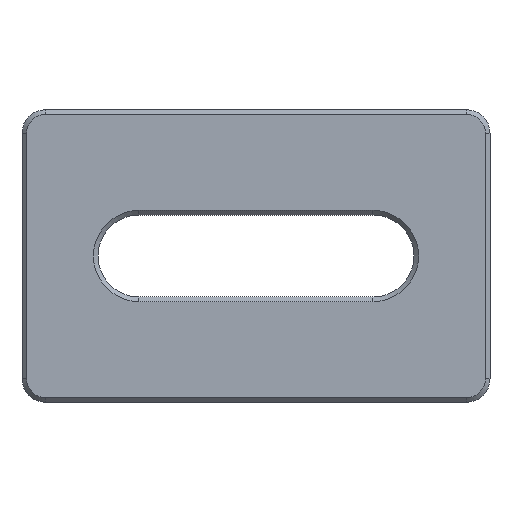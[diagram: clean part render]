
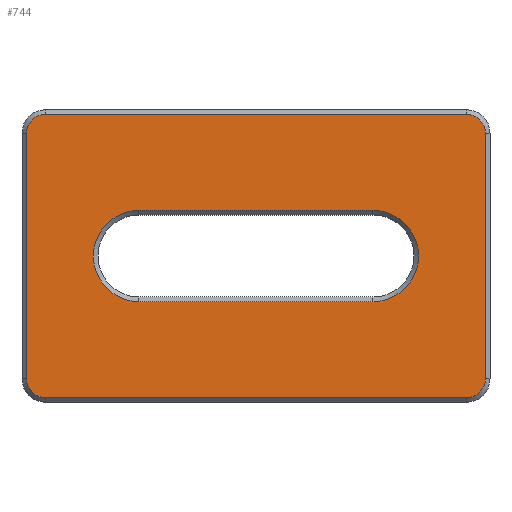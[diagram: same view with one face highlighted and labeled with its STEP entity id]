
A CAD part, front view. The second image highlights one B-rep face of the part: STEP entity #744.
In plain terms, the highlighted planar face has unit normal (0, -1, 0).
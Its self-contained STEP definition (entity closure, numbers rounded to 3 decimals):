
#17=FACE_BOUND('',#133,.T.);
#43=PLANE('',#829);
#83=FACE_OUTER_BOUND('',#132,.T.);
#132=EDGE_LOOP('',(#630,#631,#632,#633,#634,#635,#636,#637));
#133=EDGE_LOOP('',(#638,#639,#640,#641));
#169=CIRCLE('',#822,3.9);
#171=CIRCLE('',#826,3.9);
#172=CIRCLE('',#830,1.6);
#173=CIRCLE('',#831,1.6);
#174=CIRCLE('',#832,1.6);
#175=CIRCLE('',#833,1.6);
#227=LINE('',#1225,#301);
#232=LINE('',#1236,#306);
#234=LINE('',#1245,#308);
#235=LINE('',#1249,#309);
#236=LINE('',#1253,#310);
#237=LINE('',#1257,#311);
#301=VECTOR('',#997,10.);
#306=VECTOR('',#1010,10.);
#308=VECTOR('',#1022,10.);
#309=VECTOR('',#1025,10.);
#310=VECTOR('',#1028,10.);
#311=VECTOR('',#1031,10.);
#371=VERTEX_POINT('',#1222);
#372=VERTEX_POINT('',#1224);
#373=VERTEX_POINT('',#1229);
#374=VERTEX_POINT('',#1234);
#375=VERTEX_POINT('',#1243);
#376=VERTEX_POINT('',#1244);
#377=VERTEX_POINT('',#1246);
#378=VERTEX_POINT('',#1248);
#379=VERTEX_POINT('',#1250);
#380=VERTEX_POINT('',#1252);
#381=VERTEX_POINT('',#1254);
#382=VERTEX_POINT('',#1256);
#456=EDGE_CURVE('',#371,#372,#227,.T.);
#460=EDGE_CURVE('',#373,#371,#169,.T.);
#463=EDGE_CURVE('',#374,#373,#232,.T.);
#464=EDGE_CURVE('',#372,#374,#171,.T.);
#466=EDGE_CURVE('',#375,#376,#234,.T.);
#467=EDGE_CURVE('',#377,#375,#172,.T.);
#468=EDGE_CURVE('',#378,#377,#235,.T.);
#469=EDGE_CURVE('',#379,#378,#173,.T.);
#470=EDGE_CURVE('',#380,#379,#236,.T.);
#471=EDGE_CURVE('',#381,#380,#174,.T.);
#472=EDGE_CURVE('',#382,#381,#237,.T.);
#473=EDGE_CURVE('',#376,#382,#175,.T.);
#630=ORIENTED_EDGE('',*,*,#466,.F.);
#631=ORIENTED_EDGE('',*,*,#467,.F.);
#632=ORIENTED_EDGE('',*,*,#468,.F.);
#633=ORIENTED_EDGE('',*,*,#469,.F.);
#634=ORIENTED_EDGE('',*,*,#470,.F.);
#635=ORIENTED_EDGE('',*,*,#471,.F.);
#636=ORIENTED_EDGE('',*,*,#472,.F.);
#637=ORIENTED_EDGE('',*,*,#473,.F.);
#638=ORIENTED_EDGE('',*,*,#456,.F.);
#639=ORIENTED_EDGE('',*,*,#460,.F.);
#640=ORIENTED_EDGE('',*,*,#463,.F.);
#641=ORIENTED_EDGE('',*,*,#464,.F.);
#744=ADVANCED_FACE('',(#83,#17),#43,.F.);
#822=AXIS2_PLACEMENT_3D('',#1231,#1003,#1004);
#826=AXIS2_PLACEMENT_3D('',#1238,#1013,#1014);
#829=AXIS2_PLACEMENT_3D('',#1242,#1020,#1021);
#830=AXIS2_PLACEMENT_3D('',#1247,#1023,#1024);
#831=AXIS2_PLACEMENT_3D('',#1251,#1026,#1027);
#832=AXIS2_PLACEMENT_3D('',#1255,#1029,#1030);
#833=AXIS2_PLACEMENT_3D('',#1258,#1032,#1033);
#997=DIRECTION('',(-1.,0.,0.));
#1003=DIRECTION('center_axis',(0.,-1.,0.));
#1004=DIRECTION('ref_axis',(0.,0.,1.));
#1010=DIRECTION('',(1.,0.,0.));
#1013=DIRECTION('center_axis',(0.,-1.,0.));
#1014=DIRECTION('ref_axis',(0.,0.,-1.));
#1020=DIRECTION('center_axis',(0.,1.,0.));
#1021=DIRECTION('ref_axis',(-1.,0.,0.));
#1022=DIRECTION('',(1.,0.,0.));
#1023=DIRECTION('center_axis',(0.,1.,0.));
#1024=DIRECTION('ref_axis',(-0.707,0.,0.707));
#1025=DIRECTION('',(0.,0.,1.));
#1026=DIRECTION('center_axis',(0.,1.,0.));
#1027=DIRECTION('ref_axis',(-0.707,0.,-0.707));
#1028=DIRECTION('',(-1.,0.,0.));
#1029=DIRECTION('center_axis',(0.,1.,0.));
#1030=DIRECTION('ref_axis',(0.707,0.,-0.707));
#1031=DIRECTION('',(0.,0.,-1.));
#1032=DIRECTION('center_axis',(0.,1.,0.));
#1033=DIRECTION('ref_axis',(0.707,0.,0.707));
#1222=CARTESIAN_POINT('',(-178.669,-10.339,125.532));
#1224=CARTESIAN_POINT('',(-198.669,-10.339,125.532));
#1225=CARTESIAN_POINT('',(-183.669,-10.339,125.532));
#1229=CARTESIAN_POINT('',(-178.669,-10.339,117.732));
#1231=CARTESIAN_POINT('Origin',(-178.669,-10.339,121.632));
#1234=CARTESIAN_POINT('',(-198.669,-10.339,117.732));
#1236=CARTESIAN_POINT('',(-193.669,-10.339,117.732));
#1238=CARTESIAN_POINT('Origin',(-198.669,-10.339,121.632));
#1242=CARTESIAN_POINT('Origin',(-188.669,-10.339,121.632));
#1243=CARTESIAN_POINT('',(-206.669,-10.339,133.732));
#1244=CARTESIAN_POINT('',(-170.669,-10.339,133.732));
#1245=CARTESIAN_POINT('',(-198.669,-10.339,133.732));
#1246=CARTESIAN_POINT('',(-208.269,-10.339,132.132));
#1247=CARTESIAN_POINT('Origin',(-206.669,-10.339,132.132));
#1248=CARTESIAN_POINT('',(-208.269,-10.339,111.132));
#1249=CARTESIAN_POINT('',(-208.269,-10.339,115.382));
#1250=CARTESIAN_POINT('',(-206.669,-10.339,109.532));
#1251=CARTESIAN_POINT('Origin',(-206.669,-10.339,111.132));
#1252=CARTESIAN_POINT('',(-170.669,-10.339,109.532));
#1253=CARTESIAN_POINT('',(-178.669,-10.339,109.532));
#1254=CARTESIAN_POINT('',(-169.069,-10.339,111.132));
#1255=CARTESIAN_POINT('Origin',(-170.669,-10.339,111.132));
#1256=CARTESIAN_POINT('',(-169.069,-10.339,132.132));
#1257=CARTESIAN_POINT('',(-169.069,-10.339,127.882));
#1258=CARTESIAN_POINT('Origin',(-170.669,-10.339,132.132));
